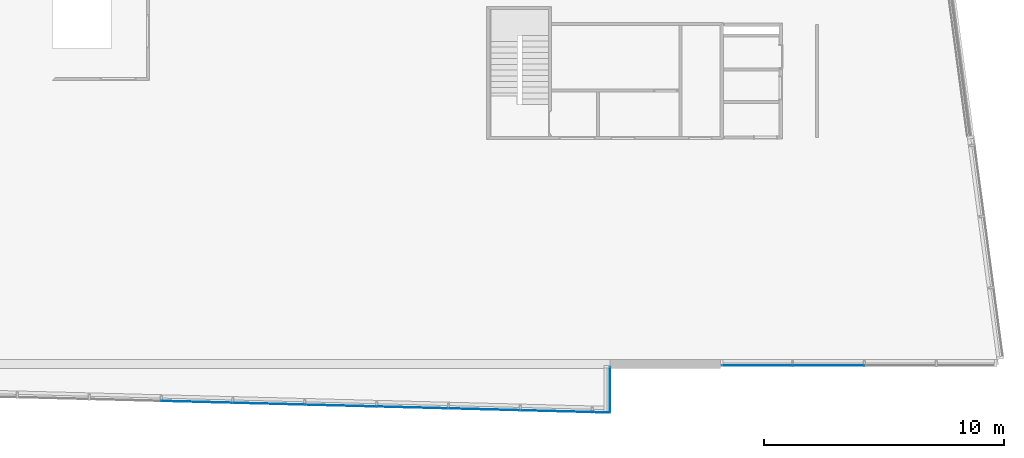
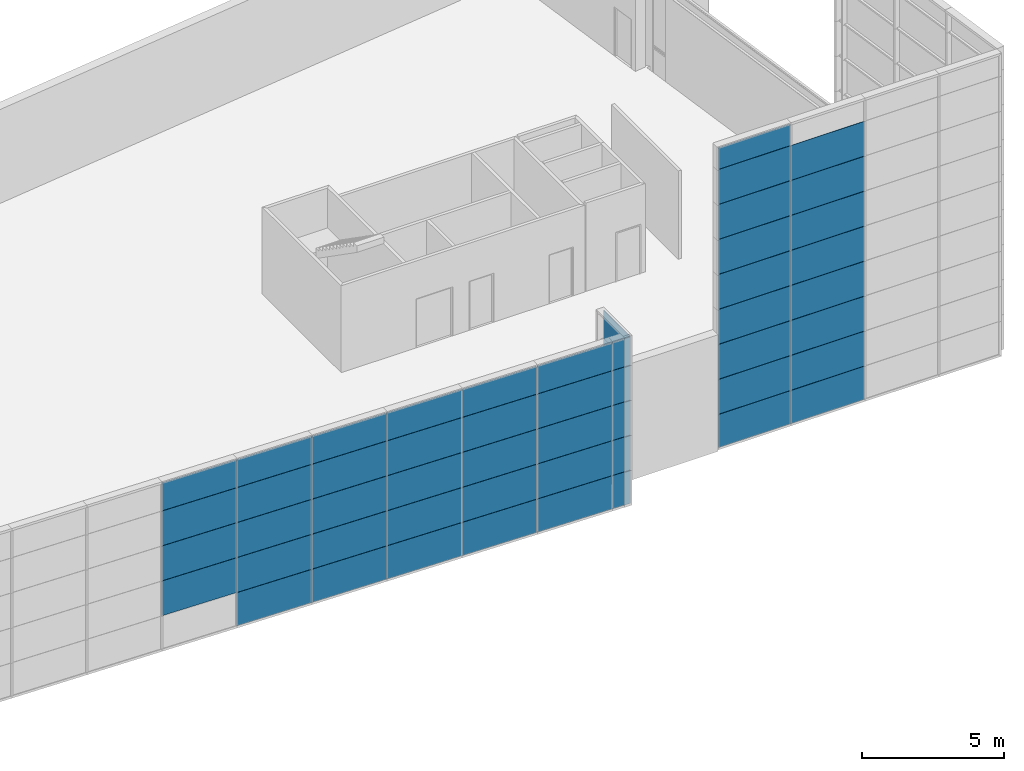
# One storey, part 16 of 27: 56 plates, 3 elements without a shape of their own.
"""IFC2X3 building model written with IfcOpenShell, lengths in metres."""

from ifc_helpers import new_model, entity, si_unit, converted_unit, money_unit, direction, frame, origin_with_axes, place, context, subcontext, project, spatial, polyline, outline, extrude, material, type_object, element, aggregate, save


model = new_model("IFC2X3")

# Units and contexts
model_context = context("Model", 3, precision=1e-05, world=origin_with_axes(), true_north=direction((0.0, 1.0)))
body_context = subcontext(model_context, "Body", "Model", "MODEL_VIEW")
ifc_project = project(units=[si_unit("LENGTHUNIT", "METRE"), si_unit("AREAUNIT", "SQUARE_METRE"), si_unit("VOLUMEUNIT", "CUBIC_METRE"), converted_unit("PLANEANGLEUNIT", "DEGREE", entity("IfcPlaneAngleMeasure", 0.0174532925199), si_unit("PLANEANGLEUNIT", "RADIAN"), dimensions=[0, 0, 0, 0, 0, 0, 0]), si_unit("SOLIDANGLEUNIT", "STERADIAN"), money_unit("EUR"), converted_unit("TIMEUNIT", "Year", entity("IfcTimeMeasure", 31556926.0), si_unit("TIMEUNIT", "SECOND"), dimensions=[0, 0, 0, 0, 0, 0, 0]), si_unit("MASSUNIT", "GRAM"), si_unit("THERMODYNAMICTEMPERATUREUNIT", "DEGREE_CELSIUS"), si_unit("LUMINOUSINTENSITYUNIT", "LUMEN")], contexts=[model_context])

# Site, building, storey
site_placement = place(None, origin_with_axes())
site = spatial("IfcSite", under=ifc_project, at=site_placement, Name="Undefined", CompositionType="ELEMENT")
building_placement = place(site_placement, origin_with_axes())
building = spatial("IfcBuilding", under=site, at=building_placement, Name="Undefined", CompositionType="ELEMENT")
storey_placement = place(building_placement, frame((0.0, 0.0, 5.4), z_axis=(0.0, 0.0, 1.0), x_axis=(1.0, 0.0, 0.0)))
storey = spatial("IfcBuildingStorey", under=building, at=storey_placement, Name="R+1", CompositionType="ELEMENT", Elevation=5.4)

# Curtain wall, plates
curtain_wall_type = type_object("IfcCurtainWallType", Name="Type de mur-rideau", PredefinedType="NOTDEFINED")
curtain_wall_1_placement = place(storey_placement, frame((58.35, -0.25, -1.0), z_axis=(0.0, 0.0, 1.0), x_axis=(1.0, 0.0, 0.0)))
curtain_wall_1 = element("IfcCurtainWall", 1, at=curtain_wall_1_placement, inside=storey, type_object=curtain_wall_type, Name="CurtainWall_01", ObjectType="CURTAIN WALL")
ifc_material = material(Name="Background 7019220")
plate_type_1 = type_object("IfcPlateType", Name="Panneau principal 2920 x 1490 x 20", PredefinedType="NOTDEFINED")
plate_1_placement = place(curtain_wall_1_placement, frame((0.0, 0.0, 2.25), z_axis=(0.0, 0.0, 1.0), x_axis=(-1.0, 0.0, 0.0)))
plate_1 = element("IfcPlate", 2, at=plate_1_placement, type_object=plate_type_1, material=ifc_material, Name="Panel-Main-482", context=body_context, shape_type="SweptSolid", body=[
    extrude(outline(polyline([(0.07, 0.005), (2.99, 0.005), (2.99, 1.495), (0.07, 1.495), (0.07, 0.005)])), frame((1.5, 0.0, -0.75), z_axis=(0.0, 1.0, 0.0), x_axis=(-1.0, 0.0, 0.0)), (0.0, 0.0, 1.0), 0.02),
])
plate_2_placement = place(curtain_wall_1_placement, frame((0.0, 0.0, 5.25), z_axis=(0.0, 0.0, 1.0), x_axis=(-1.0, 0.0, 0.0)))
plate_2 = element("IfcPlate", 3, at=plate_2_placement, type_object=plate_type_1, material=ifc_material, Name="Panel-Main-482", context=body_context, shape_type="SweptSolid", body=[
    extrude(outline(polyline([(0.07, 0.005), (2.99, 0.005), (2.99, 1.495), (0.07, 1.495), (0.07, 0.005)])), frame((1.5, 0.0, -0.75), z_axis=(0.0, 1.0, 0.0), x_axis=(-1.0, 0.0, 0.0)), (0.0, 0.0, 1.0), 0.02),
])
plate_3_placement = place(curtain_wall_1_placement, frame((0.0, 0.0, 8.25), z_axis=(0.0, 0.0, 1.0), x_axis=(-1.0, 0.0, 0.0)))
plate_3 = element("IfcPlate", 4, at=plate_3_placement, type_object=plate_type_1, material=ifc_material, Name="Panel-Main-482", context=body_context, shape_type="SweptSolid", body=[
    extrude(outline(polyline([(0.07, 0.005), (2.99, 0.005), (2.99, 1.495), (0.07, 1.495), (0.07, 0.005)])), frame((1.5, 0.0, -0.75), z_axis=(0.0, 1.0, 0.0), x_axis=(-1.0, 0.0, 0.0)), (0.0, 0.0, 1.0), 0.02),
])
plate_4_placement = place(curtain_wall_1_placement, frame((0.0, 0.0, 11.25), z_axis=(0.0, 0.0, 1.0), x_axis=(-1.0, 0.0, 0.0)))
plate_4 = element("IfcPlate", 5, at=plate_4_placement, type_object=plate_type_1, material=ifc_material, Name="Panel-Main-482", context=body_context, shape_type="SweptSolid", body=[
    extrude(outline(polyline([(0.07, 0.005), (2.99, 0.005), (2.99, 1.495), (0.07, 1.495), (0.07, 0.005)])), frame((1.5, 0.0, -0.75), z_axis=(0.0, 1.0, 0.0), x_axis=(-1.0, 0.0, 0.0)), (0.0, 0.0, 1.0), 0.02),
])
plate_type_2 = type_object("IfcPlateType", Name="Panneau secondaire 2980 x 1490 x 20", PredefinedType="NOTDEFINED")
plate_5_placement = place(curtain_wall_1_placement, frame((3.0, 0.0, 2.25), z_axis=(0.0, 0.0, 1.0), x_axis=(-1.0, 0.0, 0.0)))
plate_5 = element("IfcPlate", 6, at=plate_5_placement, type_object=plate_type_2, material=ifc_material, Name="Panel-Dist-024", context=body_context, shape_type="SweptSolid", body=[
    extrude(outline(polyline([(0.01, 0.005), (2.99, 0.005), (2.99, 1.495), (0.01, 1.495), (0.01, 0.005)])), frame((1.5, 0.0, -0.75), z_axis=(0.0, 1.0, 0.0), x_axis=(-1.0, 0.0, 0.0)), (0.0, 0.0, 1.0), 0.02),
])
plate_6_placement = place(curtain_wall_1_placement, frame((3.0, 0.0, 3.75), z_axis=(0.0, 0.0, 1.0), x_axis=(-1.0, 0.0, 0.0)))
plate_6 = element("IfcPlate", 7, at=plate_6_placement, type_object=plate_type_2, material=ifc_material, Name="Panel-Dist-024", context=body_context, shape_type="SweptSolid", body=[
    extrude(outline(polyline([(0.01, 0.005), (2.99, 0.005), (2.99, 1.495), (0.01, 1.495), (0.01, 0.005)])), frame((1.5, 0.0, -0.75), z_axis=(0.0, 1.0, 0.0), x_axis=(-1.0, 0.0, 0.0)), (0.0, 0.0, 1.0), 0.02),
])
plate_7_placement = place(curtain_wall_1_placement, frame((3.0, 0.0, 5.25), z_axis=(0.0, 0.0, 1.0), x_axis=(-1.0, 0.0, 0.0)))
plate_7 = element("IfcPlate", 8, at=plate_7_placement, type_object=plate_type_2, material=ifc_material, Name="Panel-Dist-024", context=body_context, shape_type="SweptSolid", body=[
    extrude(outline(polyline([(0.01, 0.005), (2.99, 0.005), (2.99, 1.495), (0.01, 1.495), (0.01, 0.005)])), frame((1.5, 0.0, -0.75), z_axis=(0.0, 1.0, 0.0), x_axis=(-1.0, 0.0, 0.0)), (0.0, 0.0, 1.0), 0.02),
])
plate_8_placement = place(curtain_wall_1_placement, frame((3.0, 0.0, 6.75), z_axis=(0.0, 0.0, 1.0), x_axis=(-1.0, 0.0, 0.0)))
plate_8 = element("IfcPlate", 9, at=plate_8_placement, type_object=plate_type_2, material=ifc_material, Name="Panel-Dist-024", context=body_context, shape_type="SweptSolid", body=[
    extrude(outline(polyline([(0.01, 0.005), (2.99, 0.005), (2.99, 1.495), (0.01, 1.495), (0.01, 0.005)])), frame((1.5, 0.0, -0.75), z_axis=(0.0, 1.0, 0.0), x_axis=(-1.0, 0.0, 0.0)), (0.0, 0.0, 1.0), 0.02),
])
plate_9_placement = place(curtain_wall_1_placement, frame((3.0, 0.0, 8.25), z_axis=(0.0, 0.0, 1.0), x_axis=(-1.0, 0.0, 0.0)))
plate_9 = element("IfcPlate", 10, at=plate_9_placement, type_object=plate_type_2, material=ifc_material, Name="Panel-Dist-024", context=body_context, shape_type="SweptSolid", body=[
    extrude(outline(polyline([(0.01, 0.005), (2.99, 0.005), (2.99, 1.495), (0.01, 1.495), (0.01, 0.005)])), frame((1.5, 0.0, -0.75), z_axis=(0.0, 1.0, 0.0), x_axis=(-1.0, 0.0, 0.0)), (0.0, 0.0, 1.0), 0.02),
])
plate_10_placement = place(curtain_wall_1_placement, frame((3.0, 0.0, 9.75), z_axis=(0.0, 0.0, 1.0), x_axis=(-1.0, 0.0, 0.0)))
plate_10 = element("IfcPlate", 11, at=plate_10_placement, type_object=plate_type_2, material=ifc_material, Name="Panel-Dist-024", context=body_context, shape_type="SweptSolid", body=[
    extrude(outline(polyline([(0.01, 0.005), (2.99, 0.005), (2.99, 1.495), (0.01, 1.495), (0.01, 0.005)])), frame((1.5, 0.0, -0.75), z_axis=(0.0, 1.0, 0.0), x_axis=(-1.0, 0.0, 0.0)), (0.0, 0.0, 1.0), 0.02),
])
plate_11_placement = place(curtain_wall_1_placement, frame((3.0, 0.0, 11.25), z_axis=(0.0, 0.0, 1.0), x_axis=(-1.0, 0.0, 0.0)))
plate_11 = element("IfcPlate", 12, at=plate_11_placement, type_object=plate_type_2, material=ifc_material, Name="Panel-Dist-024", context=body_context, shape_type="SweptSolid", body=[
    extrude(outline(polyline([(0.01, 0.005), (2.99, 0.005), (2.99, 1.495), (0.01, 1.495), (0.01, 0.005)])), frame((1.5, 0.0, -0.75), z_axis=(0.0, 1.0, 0.0), x_axis=(-1.0, 0.0, 0.0)), (0.0, 0.0, 1.0), 0.02),
])

curtain_wall_2_placement = place(storey_placement, frame((10.9994920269, -1.13484133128, -0.55), z_axis=(0.0, 0.0, 1.0), x_axis=(1.0, 0.0, 0.0)))
curtain_wall_2 = element("IfcCurtainWall", 13, at=curtain_wall_2_placement, inside=storey, type_object=curtain_wall_type, Name="CurtainWall_01", ObjectType="CURTAIN WALL")
plate_12_placement = place(curtain_wall_2_placement, frame((26.9908570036, -0.702593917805, 2.25), z_axis=(0.0, 0.0, 1.0), x_axis=(-0.999661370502, 0.0260219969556, 0.0)))
plate_12 = element("IfcPlate", 14, at=plate_12_placement, type_object=plate_type_2, material=ifc_material, Name="Panel-Dist-569", context=body_context, shape_type="SweptSolid", body=[
    extrude(outline(polyline([(0.01, 0.005), (2.99, 0.005), (2.99, 1.495), (0.01, 1.495), (0.01, 0.005)])), frame((1.5, 0.0, -0.75), z_axis=(0.0, 1.0, 0.0), x_axis=(-1.0, 0.0, 0.0)), (0.0, 0.0, 1.0), 0.02),
])
plate_13_placement = place(curtain_wall_2_placement, frame((32.9888252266, -0.858725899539, 2.25), z_axis=(0.0, 0.0, 1.0), x_axis=(-0.999661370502, 0.0260219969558, 0.0)))
plate_13 = element("IfcPlate", 15, at=plate_13_placement, type_object=plate_type_2, material=ifc_material, Name="Panel-Dist-569", context=body_context, shape_type="SweptSolid", body=[
    extrude(outline(polyline([(0.01, 0.005), (2.99, 0.005), (2.99, 1.495), (0.01, 1.495), (0.01, 0.005)])), frame((1.5, 0.0, -0.75), z_axis=(0.0, 1.0, 0.0), x_axis=(-1.0, 0.0, 0.0)), (0.0, 0.0, 1.0), 0.02),
])
plate_14_placement = place(curtain_wall_2_placement, frame((38.9867934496, -1.01485788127, 2.25), z_axis=(0.0, 0.0, 1.0), x_axis=(-0.999661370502, 0.0260219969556, 0.0)))
plate_14 = element("IfcPlate", 16, at=plate_14_placement, type_object=plate_type_2, material=ifc_material, Name="Panel-Dist-569", context=body_context, shape_type="SweptSolid", body=[
    extrude(outline(polyline([(0.01, 0.005), (2.99, 0.005), (2.99, 1.495), (0.01, 1.495), (0.01, 0.005)])), frame((1.5, 0.0, -0.75), z_axis=(0.0, 1.0, 0.0), x_axis=(-1.0, 0.0, 0.0)), (0.0, 0.0, 1.0), 0.02),
])
plate_15_placement = place(curtain_wall_2_placement, frame((23.9918728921, -0.624527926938, 3.75), z_axis=(0.0, 0.0, 1.0), x_axis=(-0.999661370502, 0.0260219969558, 0.0)))
plate_15 = element("IfcPlate", 17, at=plate_15_placement, type_object=plate_type_2, material=ifc_material, Name="Panel-Dist-569", context=body_context, shape_type="SweptSolid", body=[
    extrude(outline(polyline([(0.01, 0.005), (2.99, 0.005), (2.99, 1.495), (0.01, 1.495), (0.01, 0.005)])), frame((1.5, 0.0, -0.75), z_axis=(0.0, 1.0, 0.0), x_axis=(-1.0, 0.0, 0.0)), (0.0, 0.0, 1.0), 0.02),
])
plate_16_placement = place(curtain_wall_2_placement, frame((26.9908570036, -0.702593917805, 3.75), z_axis=(0.0, 0.0, 1.0), x_axis=(-0.999661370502, 0.0260219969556, 0.0)))
plate_16 = element("IfcPlate", 18, at=plate_16_placement, type_object=plate_type_2, material=ifc_material, Name="Panel-Dist-569", context=body_context, shape_type="SweptSolid", body=[
    extrude(outline(polyline([(0.01, 0.005), (2.99, 0.005), (2.99, 1.495), (0.01, 1.495), (0.01, 0.005)])), frame((1.5, 0.0, -0.75), z_axis=(0.0, 1.0, 0.0), x_axis=(-1.0, 0.0, 0.0)), (0.0, 0.0, 1.0), 0.02),
])
plate_17_placement = place(curtain_wall_2_placement, frame((29.9898411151, -0.780659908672, 3.75), z_axis=(0.0, 0.0, 1.0), x_axis=(-0.999661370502, 0.0260219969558, 0.0)))
plate_17 = element("IfcPlate", 19, at=plate_17_placement, type_object=plate_type_2, material=ifc_material, Name="Panel-Dist-569", context=body_context, shape_type="SweptSolid", body=[
    extrude(outline(polyline([(0.01, 0.005), (2.99, 0.005), (2.99, 1.495), (0.01, 1.495), (0.01, 0.005)])), frame((1.5, 0.0, -0.75), z_axis=(0.0, 1.0, 0.0), x_axis=(-1.0, 0.0, 0.0)), (0.0, 0.0, 1.0), 0.02),
])
plate_18_placement = place(curtain_wall_2_placement, frame((32.9888252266, -0.858725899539, 3.75), z_axis=(0.0, 0.0, 1.0), x_axis=(-0.999661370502, 0.0260219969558, 0.0)))
plate_18 = element("IfcPlate", 20, at=plate_18_placement, type_object=plate_type_2, material=ifc_material, Name="Panel-Dist-569", context=body_context, shape_type="SweptSolid", body=[
    extrude(outline(polyline([(0.01, 0.005), (2.99, 0.005), (2.99, 1.495), (0.01, 1.495), (0.01, 0.005)])), frame((1.5, 0.0, -0.75), z_axis=(0.0, 1.0, 0.0), x_axis=(-1.0, 0.0, 0.0)), (0.0, 0.0, 1.0), 0.02),
])
plate_19_placement = place(curtain_wall_2_placement, frame((35.9878093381, -0.936791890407, 3.75), z_axis=(0.0, 0.0, 1.0), x_axis=(-0.999661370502, 0.0260219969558, 0.0)))
plate_19 = element("IfcPlate", 21, at=plate_19_placement, type_object=plate_type_2, material=ifc_material, Name="Panel-Dist-569", context=body_context, shape_type="SweptSolid", body=[
    extrude(outline(polyline([(0.01, 0.005), (2.99, 0.005), (2.99, 1.495), (0.01, 1.495), (0.01, 0.005)])), frame((1.5, 0.0, -0.75), z_axis=(0.0, 1.0, 0.0), x_axis=(-1.0, 0.0, 0.0)), (0.0, 0.0, 1.0), 0.02),
])
plate_20_placement = place(curtain_wall_2_placement, frame((38.9867934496, -1.01485788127, 3.75), z_axis=(0.0, 0.0, 1.0), x_axis=(-0.999661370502, 0.0260219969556, 0.0)))
plate_20 = element("IfcPlate", 22, at=plate_20_placement, type_object=plate_type_2, material=ifc_material, Name="Panel-Dist-569", context=body_context, shape_type="SweptSolid", body=[
    extrude(outline(polyline([(0.01, 0.005), (2.99, 0.005), (2.99, 1.495), (0.01, 1.495), (0.01, 0.005)])), frame((1.5, 0.0, -0.75), z_axis=(0.0, 1.0, 0.0), x_axis=(-1.0, 0.0, 0.0)), (0.0, 0.0, 1.0), 0.02),
])
plate_21_placement = place(curtain_wall_2_placement, frame((26.9908570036, -0.702593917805, 5.25), z_axis=(0.0, 0.0, 1.0), x_axis=(-0.999661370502, 0.0260219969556, 0.0)))
plate_21 = element("IfcPlate", 23, at=plate_21_placement, type_object=plate_type_2, material=ifc_material, Name="Panel-Dist-569", context=body_context, shape_type="SweptSolid", body=[
    extrude(outline(polyline([(0.01, 0.005), (2.99, 0.005), (2.99, 1.495), (0.01, 1.495), (0.01, 0.005)])), frame((1.5, 0.0, -0.75), z_axis=(0.0, 1.0, 0.0), x_axis=(-1.0, 0.0, 0.0)), (0.0, 0.0, 1.0), 0.02),
])
plate_22_placement = place(curtain_wall_2_placement, frame((32.9888252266, -0.858725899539, 5.25), z_axis=(0.0, 0.0, 1.0), x_axis=(-0.999661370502, 0.0260219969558, 0.0)))
plate_22 = element("IfcPlate", 24, at=plate_22_placement, type_object=plate_type_2, material=ifc_material, Name="Panel-Dist-569", context=body_context, shape_type="SweptSolid", body=[
    extrude(outline(polyline([(0.01, 0.005), (2.99, 0.005), (2.99, 1.495), (0.01, 1.495), (0.01, 0.005)])), frame((1.5, 0.0, -0.75), z_axis=(0.0, 1.0, 0.0), x_axis=(-1.0, 0.0, 0.0)), (0.0, 0.0, 1.0), 0.02),
])
plate_23_placement = place(curtain_wall_2_placement, frame((38.9867934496, -1.01485788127, 5.25), z_axis=(0.0, 0.0, 1.0), x_axis=(-0.999661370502, 0.0260219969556, 0.0)))
plate_23 = element("IfcPlate", 25, at=plate_23_placement, type_object=plate_type_2, material=ifc_material, Name="Panel-Dist-569", context=body_context, shape_type="SweptSolid", body=[
    extrude(outline(polyline([(0.01, 0.005), (2.99, 0.005), (2.99, 1.495), (0.01, 1.495), (0.01, 0.005)])), frame((1.5, 0.0, -0.75), z_axis=(0.0, 1.0, 0.0), x_axis=(-1.0, 0.0, 0.0)), (0.0, 0.0, 1.0), 0.02),
])
plate_type_3 = type_object("IfcPlateType", Name="Panneau principal 2980 x 1490 x 20", PredefinedType="NOTDEFINED")
plate_24_placement = place(curtain_wall_2_placement, frame((23.9918728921, -0.624527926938, 2.25), z_axis=(0.0, 0.0, 1.0), x_axis=(-0.999661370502, 0.0260219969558, 0.0)))
plate_24 = element("IfcPlate", 26, at=plate_24_placement, type_object=plate_type_3, material=ifc_material, Name="Panel-Main-131", context=body_context, shape_type="SweptSolid", body=[
    extrude(outline(polyline([(0.01, 0.005), (2.99, 0.005), (2.99, 1.495), (0.01, 1.495), (0.01, 0.005)])), frame((1.5, 0.0, -0.75), z_axis=(0.0, 1.0, 0.0), x_axis=(-1.0, 0.0, 0.0)), (0.0, 0.0, 1.0), 0.02),
])
plate_25_placement = place(curtain_wall_2_placement, frame((29.9898411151, -0.780659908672, 2.25), z_axis=(0.0, 0.0, 1.0), x_axis=(-0.999661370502, 0.0260219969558, 0.0)))
plate_25 = element("IfcPlate", 27, at=plate_25_placement, type_object=plate_type_3, material=ifc_material, Name="Panel-Main-131", context=body_context, shape_type="SweptSolid", body=[
    extrude(outline(polyline([(0.01, 0.005), (2.99, 0.005), (2.99, 1.495), (0.01, 1.495), (0.01, 0.005)])), frame((1.5, 0.0, -0.75), z_axis=(0.0, 1.0, 0.0), x_axis=(-1.0, 0.0, 0.0)), (0.0, 0.0, 1.0), 0.02),
])
plate_26_placement = place(curtain_wall_2_placement, frame((35.9878093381, -0.936791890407, 2.25), z_axis=(0.0, 0.0, 1.0), x_axis=(-0.999661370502, 0.0260219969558, 0.0)))
plate_26 = element("IfcPlate", 28, at=plate_26_placement, type_object=plate_type_3, material=ifc_material, Name="Panel-Main-131", context=body_context, shape_type="SweptSolid", body=[
    extrude(outline(polyline([(0.01, 0.005), (2.99, 0.005), (2.99, 1.495), (0.01, 1.495), (0.01, 0.005)])), frame((1.5, 0.0, -0.75), z_axis=(0.0, 1.0, 0.0), x_axis=(-1.0, 0.0, 0.0)), (0.0, 0.0, 1.0), 0.02),
])
plate_27_placement = place(curtain_wall_2_placement, frame((23.9918728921, -0.624527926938, 5.25), z_axis=(0.0, 0.0, 1.0), x_axis=(-0.999661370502, 0.0260219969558, 0.0)))
plate_27 = element("IfcPlate", 29, at=plate_27_placement, type_object=plate_type_3, material=ifc_material, Name="Panel-Main-131", context=body_context, shape_type="SweptSolid", body=[
    extrude(outline(polyline([(0.01, 0.005), (2.99, 0.005), (2.99, 1.495), (0.01, 1.495), (0.01, 0.005)])), frame((1.5, 0.0, -0.75), z_axis=(0.0, 1.0, 0.0), x_axis=(-1.0, 0.0, 0.0)), (0.0, 0.0, 1.0), 0.02),
])
plate_28_placement = place(curtain_wall_2_placement, frame((29.9898411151, -0.780659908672, 5.25), z_axis=(0.0, 0.0, 1.0), x_axis=(-0.999661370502, 0.0260219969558, 0.0)))
plate_28 = element("IfcPlate", 30, at=plate_28_placement, type_object=plate_type_3, material=ifc_material, Name="Panel-Main-131", context=body_context, shape_type="SweptSolid", body=[
    extrude(outline(polyline([(0.01, 0.005), (2.99, 0.005), (2.99, 1.495), (0.01, 1.495), (0.01, 0.005)])), frame((1.5, 0.0, -0.75), z_axis=(0.0, 1.0, 0.0), x_axis=(-1.0, 0.0, 0.0)), (0.0, 0.0, 1.0), 0.02),
])
plate_29_placement = place(curtain_wall_2_placement, frame((35.9878093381, -0.936791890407, 5.25), z_axis=(0.0, 0.0, 1.0), x_axis=(-0.999661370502, 0.0260219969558, 0.0)))
plate_29 = element("IfcPlate", 31, at=plate_29_placement, type_object=plate_type_3, material=ifc_material, Name="Panel-Main-131", context=body_context, shape_type="SweptSolid", body=[
    extrude(outline(polyline([(0.01, 0.005), (2.99, 0.005), (2.99, 1.495), (0.01, 1.495), (0.01, 0.005)])), frame((1.5, 0.0, -0.75), z_axis=(0.0, 1.0, 0.0), x_axis=(-1.0, 0.0, 0.0)), (0.0, 0.0, 1.0), 0.02),
])

# Plate
plate_type_4 = type_object("IfcPlateType", Name="Panneau secondaire 2920 x 1490 x 20", PredefinedType="NOTDEFINED")
plate_30_placement = place(curtain_wall_1_placement, frame((0.0, 0.0, 3.75), z_axis=(0.0, 0.0, 1.0), x_axis=(-1.0, 0.0, 0.0)))
plate_30 = element("IfcPlate", 32, at=plate_30_placement, type_object=plate_type_4, material=ifc_material, Name="Panel-Dist-024", context=body_context, shape_type="SweptSolid", body=[
    extrude(outline(polyline([(0.07, 0.005), (2.99, 0.005), (2.99, 1.495), (0.07, 1.495), (0.07, 0.005)])), frame((1.5, 0.0, -0.75), z_axis=(0.0, 1.0, 0.0), x_axis=(-1.0, 0.0, 0.0)), (0.0, 0.0, 1.0), 0.02),
])

plate_31_placement = place(curtain_wall_1_placement, frame((0.0, 0.0, 6.75), z_axis=(0.0, 0.0, 1.0), x_axis=(-1.0, 0.0, 0.0)))
plate_31 = element("IfcPlate", 33, at=plate_31_placement, type_object=plate_type_4, material=ifc_material, Name="Panel-Dist-024", context=body_context, shape_type="SweptSolid", body=[
    extrude(outline(polyline([(0.07, 0.005), (2.99, 0.005), (2.99, 1.495), (0.07, 1.495), (0.07, 0.005)])), frame((1.5, 0.0, -0.75), z_axis=(0.0, 1.0, 0.0), x_axis=(-1.0, 0.0, 0.0)), (0.0, 0.0, 1.0), 0.02),
])

plate_32_placement = place(curtain_wall_1_placement, frame((0.0, 0.0, 9.75), z_axis=(0.0, 0.0, 1.0), x_axis=(-1.0, 0.0, 0.0)))
plate_32 = element("IfcPlate", 34, at=plate_32_placement, type_object=plate_type_4, material=ifc_material, Name="Panel-Dist-024", context=body_context, shape_type="SweptSolid", body=[
    extrude(outline(polyline([(0.07, 0.005), (2.99, 0.005), (2.99, 1.495), (0.07, 1.495), (0.07, 0.005)])), frame((1.5, 0.0, -0.75), z_axis=(0.0, 1.0, 0.0), x_axis=(-1.0, 0.0, 0.0)), (0.0, 0.0, 1.0), 0.02),
])

plate_type_5 = type_object("IfcPlateType", Name="Panneau secondaire 2920 x 925 x 20", PredefinedType="NOTDEFINED")
plate_33_placement = place(curtain_wall_1_placement, frame((0.0, 0.0, 12.5000000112), z_axis=(0.0, 0.0, 1.0), x_axis=(-1.0, 0.0, 0.0)))
plate_33 = element("IfcPlate", 35, at=plate_33_placement, type_object=plate_type_5, material=ifc_material, Name="Panel-Dist-032", context=body_context, shape_type="SweptSolid", body=[
    extrude(outline(polyline([(0.07, 0.005), (2.99, 0.005), (2.99, 0.930000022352), (0.07, 0.930000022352), (0.07, 0.005)])), frame((1.5, 0.0, -0.500000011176), z_axis=(0.0, 1.0, 0.0), x_axis=(-1.0, 0.0, 0.0)), (0.0, 0.0, 1.0), 0.02),
])

# Curtain wall, plates
curtain_wall_3_placement = place(storey_placement, frame((52.2244318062, -1.23226876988, -0.55), z_axis=(0.0, 0.0, 1.0), x_axis=(1.0, 0.0, 0.0)))
curtain_wall_3 = element("IfcCurtainWall", 36, at=curtain_wall_3_placement, inside=storey, type_object=curtain_wall_type, Name="CurtainWall_01", ObjectType="CURTAIN WALL")
plate_type_6 = type_object("IfcPlateType", Name="Panneau secondaire 1861 x 1425 x 20", PredefinedType="NOTDEFINED")
plate_34_placement = place(curtain_wall_3_placement, frame((0.0, 0.0, 0.75), z_axis=(0.0, 0.0, 1.0), x_axis=(-1.00032442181e-07, -1.0, 0.0)))
plate_34 = element("IfcPlate", 37, at=plate_34_placement, type_object=plate_type_6, material=ifc_material, Name="Panel-Dist-569", context=body_context, shape_type="SweptSolid", body=[
    extrude(outline(polyline([(0.02, 0.07), (1.88138241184, 0.07), (1.88138241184, 1.495), (0.02, 1.495), (0.02, 0.07)])), frame((0.975691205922, 0.0, -0.75), z_axis=(0.0, 1.0, 0.0), x_axis=(-1.0, 0.0, 0.0)), (0.0, 0.0, 1.0), 0.02),
])
plate_type_7 = type_object("IfcPlateType", Name="Panneau principal 1861 x 1490 x 20", PredefinedType="NOTDEFINED")
plate_35_placement = place(curtain_wall_3_placement, frame((0.0, 0.0, 2.25), z_axis=(0.0, 0.0, 1.0), x_axis=(-1.00032442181e-07, -1.0, 0.0)))
plate_35 = element("IfcPlate", 38, at=plate_35_placement, type_object=plate_type_7, material=ifc_material, Name="Panel-Main-131", context=body_context, shape_type="SweptSolid", body=[
    extrude(outline(polyline([(0.02, 0.005), (1.88138241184, 0.005), (1.88138241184, 1.495), (0.02, 1.495), (0.02, 0.005)])), frame((0.975691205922, 0.0, -0.75), z_axis=(0.0, 1.0, 0.0), x_axis=(-1.0, 0.0, 0.0)), (0.0, 0.0, 1.0), 0.02),
])
plate_36_placement = place(curtain_wall_3_placement, frame((0.0, 0.0, 5.25), z_axis=(0.0, 0.0, 1.0), x_axis=(-1.00032442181e-07, -1.0, 0.0)))
plate_36 = element("IfcPlate", 39, at=plate_36_placement, type_object=plate_type_7, material=ifc_material, Name="Panel-Main-131", context=body_context, shape_type="SweptSolid", body=[
    extrude(outline(polyline([(0.02, 0.005), (1.88138241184, 0.005), (1.88138241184, 1.495), (0.02, 1.495), (0.02, 0.005)])), frame((0.975691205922, 0.0, -0.75), z_axis=(0.0, 1.0, 0.0), x_axis=(-1.0, 0.0, 0.0)), (0.0, 0.0, 1.0), 0.02),
])
plate_type_8 = type_object("IfcPlateType", Name="Panneau secondaire 1861 x 1490 x 20", PredefinedType="NOTDEFINED")
plate_37_placement = place(curtain_wall_3_placement, frame((0.0, 0.0, 3.75), z_axis=(0.0, 0.0, 1.0), x_axis=(-1.00032442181e-07, -1.0, 0.0)))
plate_37 = element("IfcPlate", 40, at=plate_37_placement, type_object=plate_type_8, material=ifc_material, Name="Panel-Dist-569", context=body_context, shape_type="SweptSolid", body=[
    extrude(outline(polyline([(0.02, 0.005), (1.88138241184, 0.005), (1.88138241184, 1.495), (0.02, 1.495), (0.02, 0.005)])), frame((0.975691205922, 0.0, -0.75), z_axis=(0.0, 1.0, 0.0), x_axis=(-1.0, 0.0, 0.0)), (0.0, 0.0, 1.0), 0.02),
])
plate_type_9 = type_object("IfcPlateType", Name="Panneau secondaire 1861 x 1200 x 20", PredefinedType="NOTDEFINED")
plate_38_placement = place(curtain_wall_3_placement, frame((0.0, -2.09361539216e-08, 6.6375), z_axis=(0.0, 0.0, 1.0), x_axis=(-1.00032442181e-07, -1.0, 0.0)))
plate_38 = element("IfcPlate", 41, at=plate_38_placement, type_object=plate_type_9, material=ifc_material, Name="Panel-Dist-580", context=body_context, shape_type="SweptSolid", body=[
    extrude(outline(polyline([(0.02, 0.005), (1.88138241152, 0.005), (1.8813823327, 1.205), (0.02, 1.205), (0.02, 0.005)])), frame((0.975691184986, 0.0, -0.6375), z_axis=(0.0, 1.0, 0.0), x_axis=(-1.0, 0.0, 0.0)), (0.0, 0.0, 1.0), 0.02),
])
aggregate(curtain_wall_3, [plate_34, plate_35, plate_37, plate_36, plate_38])

# Plate
plate_type_10 = type_object("IfcPlateType", Name="Panneau secondaire 2920 x 1425 x 20", PredefinedType="NOTDEFINED")
plate_39_placement = place(curtain_wall_1_placement, frame((0.0, 0.0, 0.75), z_axis=(0.0, 0.0, 1.0), x_axis=(-1.0, 0.0, 0.0)))
plate_39 = element("IfcPlate", 42, at=plate_39_placement, type_object=plate_type_10, material=ifc_material, Name="Panel-Dist-024", context=body_context, shape_type="SweptSolid", body=[
    extrude(outline(polyline([(0.07, 0.07), (2.99, 0.07), (2.99, 1.495), (0.07, 1.495), (0.07, 0.07)])), frame((1.5, 0.0, -0.75), z_axis=(0.0, 1.0, 0.0), x_axis=(-1.0, 0.0, 0.0)), (0.0, 0.0, 1.0), 0.02),
])

plate_type_11 = type_object("IfcPlateType", Name="Panneau secondaire 2980 x 1425 x 20", PredefinedType="NOTDEFINED")
plate_40_placement = place(curtain_wall_1_placement, frame((3.0, 0.0, 0.75), z_axis=(0.0, 0.0, 1.0), x_axis=(-1.0, 0.0, 0.0)))
plate_40 = element("IfcPlate", 43, at=plate_40_placement, type_object=plate_type_11, material=ifc_material, Name="Panel-Dist-024", context=body_context, shape_type="SweptSolid", body=[
    extrude(outline(polyline([(0.01, 0.07), (2.99, 0.07), (2.99, 1.495), (0.01, 1.495), (0.01, 0.07)])), frame((1.5, 0.0, -0.75), z_axis=(0.0, 1.0, 0.0), x_axis=(-1.0, 0.0, 0.0)), (0.0, 0.0, 1.0), 0.02),
])

aggregate(curtain_wall_1, [plate_39, plate_40, plate_1, plate_5, plate_30, plate_6, plate_2, plate_7, plate_31, plate_8, plate_3, plate_9, plate_32, plate_10, plate_4, plate_11, plate_33])

plate_41_placement = place(curtain_wall_2_placement, frame((26.9908570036, -0.702593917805, 0.75), z_axis=(0.0, 0.0, 1.0), x_axis=(-0.999661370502, 0.0260219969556, 0.0)))
plate_41 = element("IfcPlate", 44, at=plate_41_placement, type_object=plate_type_11, material=ifc_material, Name="Panel-Dist-569", context=body_context, shape_type="SweptSolid", body=[
    extrude(outline(polyline([(0.01, 0.07), (2.99, 0.07), (2.99, 1.495), (0.01, 1.495), (0.01, 0.07)])), frame((1.5, 0.0, -0.75), z_axis=(0.0, 1.0, 0.0), x_axis=(-1.0, 0.0, 0.0)), (0.0, 0.0, 1.0), 0.02),
])

plate_42_placement = place(curtain_wall_2_placement, frame((29.9898411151, -0.780659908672, 0.75), z_axis=(0.0, 0.0, 1.0), x_axis=(-0.999661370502, 0.0260219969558, 0.0)))
plate_42 = element("IfcPlate", 45, at=plate_42_placement, type_object=plate_type_11, material=ifc_material, Name="Panel-Dist-569", context=body_context, shape_type="SweptSolid", body=[
    extrude(outline(polyline([(0.01, 0.07), (2.99, 0.07), (2.99, 1.495), (0.01, 1.495), (0.01, 0.07)])), frame((1.5, 0.0, -0.75), z_axis=(0.0, 1.0, 0.0), x_axis=(-1.0, 0.0, 0.0)), (0.0, 0.0, 1.0), 0.02),
])

plate_43_placement = place(curtain_wall_2_placement, frame((32.9888252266, -0.858725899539, 0.75), z_axis=(0.0, 0.0, 1.0), x_axis=(-0.999661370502, 0.0260219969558, 0.0)))
plate_43 = element("IfcPlate", 46, at=plate_43_placement, type_object=plate_type_11, material=ifc_material, Name="Panel-Dist-569", context=body_context, shape_type="SweptSolid", body=[
    extrude(outline(polyline([(0.01, 0.07), (2.99, 0.07), (2.99, 1.495), (0.01, 1.495), (0.01, 0.07)])), frame((1.5, 0.0, -0.75), z_axis=(0.0, 1.0, 0.0), x_axis=(-1.0, 0.0, 0.0)), (0.0, 0.0, 1.0), 0.02),
])

plate_44_placement = place(curtain_wall_2_placement, frame((35.9878093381, -0.936791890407, 0.75), z_axis=(0.0, 0.0, 1.0), x_axis=(-0.999661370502, 0.0260219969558, 0.0)))
plate_44 = element("IfcPlate", 47, at=plate_44_placement, type_object=plate_type_11, material=ifc_material, Name="Panel-Dist-569", context=body_context, shape_type="SweptSolid", body=[
    extrude(outline(polyline([(0.01, 0.07), (2.99, 0.07), (2.99, 1.495), (0.01, 1.495), (0.01, 0.07)])), frame((1.5, 0.0, -0.75), z_axis=(0.0, 1.0, 0.0), x_axis=(-1.0, 0.0, 0.0)), (0.0, 0.0, 1.0), 0.02),
])

plate_45_placement = place(curtain_wall_2_placement, frame((38.9867934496, -1.01485788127, 0.75), z_axis=(0.0, 0.0, 1.0), x_axis=(-0.999661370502, 0.0260219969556, 0.0)))
plate_45 = element("IfcPlate", 48, at=plate_45_placement, type_object=plate_type_11, material=ifc_material, Name="Panel-Dist-569", context=body_context, shape_type="SweptSolid", body=[
    extrude(outline(polyline([(0.01, 0.07), (2.99, 0.07), (2.99, 1.495), (0.01, 1.495), (0.01, 0.07)])), frame((1.5, 0.0, -0.75), z_axis=(0.0, 1.0, 0.0), x_axis=(-1.0, 0.0, 0.0)), (0.0, 0.0, 1.0), 0.02),
])

plate_type_12 = type_object("IfcPlateType", Name="Panneau secondaire 2980 x 1200 x 20", PredefinedType="NOTDEFINED")
plate_46_placement = place(curtain_wall_2_placement, frame((23.9918728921, -0.624527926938, 6.63753415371), z_axis=(0.0, 0.0, 1.0), x_axis=(-0.999661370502, 0.0260219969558, 0.0)))
plate_46 = element("IfcPlate", 49, at=plate_46_placement, type_object=plate_type_12, material=ifc_material, Name="Panel-Dist-596", context=body_context, shape_type="SweptSolid", body=[
    extrude(outline(polyline([(0.01, 0.005), (2.99, 0.005), (2.99, 1.20506830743), (0.01, 1.20506830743), (0.01, 0.005)])), frame((1.5, 0.0, -0.637534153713), z_axis=(0.0, 1.0, 0.0), x_axis=(-1.0, 0.0, 0.0)), (0.0, 0.0, 1.0), 0.02),
])

plate_47_placement = place(curtain_wall_2_placement, frame((26.9908570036, -0.702593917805, 6.63753415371), z_axis=(0.0, 0.0, 1.0), x_axis=(-0.999661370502, 0.0260219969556, 0.0)))
plate_47 = element("IfcPlate", 50, at=plate_47_placement, type_object=plate_type_12, material=ifc_material, Name="Panel-Dist-597", context=body_context, shape_type="SweptSolid", body=[
    extrude(outline(polyline([(0.01, 0.005), (2.99, 0.005), (2.99, 1.20506830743), (0.01, 1.20506830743), (0.01, 0.005)])), frame((1.5, 0.0, -0.637534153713), z_axis=(0.0, 1.0, 0.0), x_axis=(-1.0, 0.0, 0.0)), (0.0, 0.0, 1.0), 0.02),
])

plate_48_placement = place(curtain_wall_2_placement, frame((29.9898411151, -0.780659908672, 6.63753415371), z_axis=(0.0, 0.0, 1.0), x_axis=(-0.999661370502, 0.0260219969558, 0.0)))
plate_48 = element("IfcPlate", 51, at=plate_48_placement, type_object=plate_type_12, material=ifc_material, Name="Panel-Dist-598", context=body_context, shape_type="SweptSolid", body=[
    extrude(outline(polyline([(0.01, 0.005), (2.99, 0.005), (2.99, 1.20506830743), (0.01, 1.20506830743), (0.01, 0.005)])), frame((1.5, 0.0, -0.637534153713), z_axis=(0.0, 1.0, 0.0), x_axis=(-1.0, 0.0, 0.0)), (0.0, 0.0, 1.0), 0.02),
])

plate_49_placement = place(curtain_wall_2_placement, frame((32.9888252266, -0.858725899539, 6.63753415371), z_axis=(0.0, 0.0, 1.0), x_axis=(-0.999661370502, 0.0260219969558, 0.0)))
plate_49 = element("IfcPlate", 52, at=plate_49_placement, type_object=plate_type_12, material=ifc_material, Name="Panel-Dist-599", context=body_context, shape_type="SweptSolid", body=[
    extrude(outline(polyline([(0.01, 0.005), (2.99, 0.005), (2.99, 1.20506830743), (0.01, 1.20506830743), (0.01, 0.005)])), frame((1.5, 0.0, -0.637534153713), z_axis=(0.0, 1.0, 0.0), x_axis=(-1.0, 0.0, 0.0)), (0.0, 0.0, 1.0), 0.02),
])

plate_50_placement = place(curtain_wall_2_placement, frame((35.9878093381, -0.936791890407, 6.63753415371), z_axis=(0.0, 0.0, 1.0), x_axis=(-0.999661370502, 0.0260219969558, 0.0)))
plate_50 = element("IfcPlate", 53, at=plate_50_placement, type_object=plate_type_12, material=ifc_material, Name="Panel-Dist-600", context=body_context, shape_type="SweptSolid", body=[
    extrude(outline(polyline([(0.01, 0.005), (2.99, 0.005), (2.99, 1.20506830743), (0.01, 1.20506830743), (0.01, 0.005)])), frame((1.5, 0.0, -0.637534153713), z_axis=(0.0, 1.0, 0.0), x_axis=(-1.0, 0.0, 0.0)), (0.0, 0.0, 1.0), 0.02),
])

plate_51_placement = place(curtain_wall_2_placement, frame((38.9867934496, -1.01485788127, 6.63753415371), z_axis=(0.0, 0.0, 1.0), x_axis=(-0.999661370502, 0.0260219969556, 0.0)))
plate_51 = element("IfcPlate", 54, at=plate_51_placement, type_object=plate_type_12, material=ifc_material, Name="Panel-Dist-601", context=body_context, shape_type="SweptSolid", body=[
    extrude(outline(polyline([(0.01, 0.005), (2.99, 0.005), (2.99, 1.20506830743), (0.01, 1.20506830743), (0.01, 0.005)])), frame((1.5, 0.0, -0.637534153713), z_axis=(0.0, 1.0, 0.0), x_axis=(-1.0, 0.0, 0.0)), (0.0, 0.0, 1.0), 0.02),
])

plate_type_13 = type_object("IfcPlateType", Name="Panneau secondaire 729 x 1425 x 20", PredefinedType="NOTDEFINED")
plate_52_placement = place(curtain_wall_2_placement, frame((40.8556125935, -1.06350476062, 0.75), z_axis=(0.0, 0.0, 1.0), x_axis=(-0.999661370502, 0.0260219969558, 0.0)))
plate_52 = element("IfcPlate", 55, at=plate_52_placement, type_object=plate_type_13, material=ifc_material, Name="Panel-Dist-655", context=body_context, shape_type="SweptSolid", body=[
    extrude(outline(polyline([(0.01, 0.07), (0.738904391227, 0.07), (0.738904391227, 1.495), (0.01, 1.495), (0.01, 0.07)])), frame((0.369452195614, 0.0, -0.75), z_axis=(0.0, 1.0, 0.0), x_axis=(-1.0, 0.0, 0.0)), (0.0, 0.0, 1.0), 0.02),
])

plate_type_14 = type_object("IfcPlateType", Name="Panneau principal 729 x 1490 x 20", PredefinedType="NOTDEFINED")
plate_53_placement = place(curtain_wall_2_placement, frame((40.8556125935, -1.06350476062, 2.25), z_axis=(0.0, 0.0, 1.0), x_axis=(-0.999661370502, 0.0260219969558, 0.0)))
plate_53 = element("IfcPlate", 56, at=plate_53_placement, type_object=plate_type_14, material=ifc_material, Name="Panel-Main-142", context=body_context, shape_type="SweptSolid", body=[
    extrude(outline(polyline([(0.01, 0.005), (0.738904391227, 0.005), (0.738904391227, 1.495), (0.01, 1.495), (0.01, 0.005)])), frame((0.369452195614, 0.0, -0.75), z_axis=(0.0, 1.0, 0.0), x_axis=(-1.0, 0.0, 0.0)), (0.0, 0.0, 1.0), 0.02),
])

plate_54_placement = place(curtain_wall_2_placement, frame((40.8556125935, -1.06350476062, 5.25), z_axis=(0.0, 0.0, 1.0), x_axis=(-0.999661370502, 0.0260219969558, 0.0)))
plate_54 = element("IfcPlate", 57, at=plate_54_placement, type_object=plate_type_14, material=ifc_material, Name="Panel-Main-141", context=body_context, shape_type="SweptSolid", body=[
    extrude(outline(polyline([(0.01, 0.005), (0.738904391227, 0.005), (0.738904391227, 1.495), (0.01, 1.495), (0.01, 0.005)])), frame((0.369452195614, 0.0, -0.75), z_axis=(0.0, 1.0, 0.0), x_axis=(-1.0, 0.0, 0.0)), (0.0, 0.0, 1.0), 0.02),
])

plate_type_15 = type_object("IfcPlateType", Name="Panneau secondaire 729 x 1490 x 20", PredefinedType="NOTDEFINED")
plate_55_placement = place(curtain_wall_2_placement, frame((40.8556125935, -1.06350476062, 3.75), z_axis=(0.0, 0.0, 1.0), x_axis=(-0.999661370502, 0.0260219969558, 0.0)))
plate_55 = element("IfcPlate", 58, at=plate_55_placement, type_object=plate_type_15, material=ifc_material, Name="Panel-Dist-654", context=body_context, shape_type="SweptSolid", body=[
    extrude(outline(polyline([(0.01, 0.005), (0.738904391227, 0.005), (0.738904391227, 1.495), (0.01, 1.495), (0.01, 0.005)])), frame((0.369452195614, 0.0, -0.75), z_axis=(0.0, 1.0, 0.0), x_axis=(-1.0, 0.0, 0.0)), (0.0, 0.0, 1.0), 0.02),
])

plate_type_16 = type_object("IfcPlateType", Name="Panneau secondaire 729 x 1200 x 20", PredefinedType="NOTDEFINED")
plate_56_placement = place(curtain_wall_2_placement, frame((40.8556125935, -1.06350476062, 6.63753415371), z_axis=(0.0, 0.0, 1.0), x_axis=(-0.999661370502, 0.0260219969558, 0.0)))
plate_56 = element("IfcPlate", 59, at=plate_56_placement, type_object=plate_type_16, material=ifc_material, Name="Panel-Dist-656", context=body_context, shape_type="SweptSolid", body=[
    extrude(outline(polyline([(0.01, 0.005), (0.738904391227, 0.005), (0.738904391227, 1.20506830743), (0.01, 1.20506830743), (0.01, 0.005)])), frame((0.369452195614, 0.0, -0.637534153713), z_axis=(0.0, 1.0, 0.0), x_axis=(-1.0, 0.0, 0.0)), (0.0, 0.0, 1.0), 0.02),
])

aggregate(curtain_wall_2, [plate_41, plate_42, plate_43, plate_44, plate_45, plate_24, plate_12, plate_25, plate_13, plate_26, plate_14, plate_15, plate_16, plate_17, plate_18, plate_19, plate_20, plate_27, plate_21, plate_28, plate_22, plate_29, plate_23, plate_46, plate_47, plate_48, plate_49, plate_50, plate_51, plate_52, plate_53, plate_55, plate_54, plate_56])

save(model, "model.ifc")
